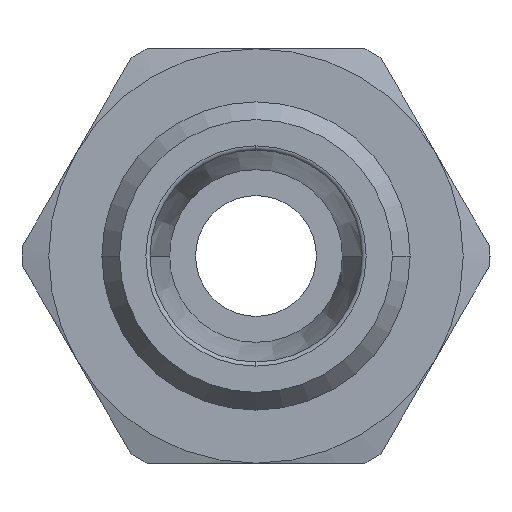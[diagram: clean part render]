
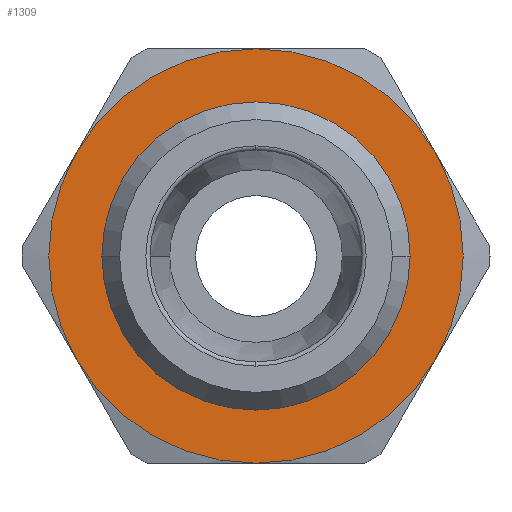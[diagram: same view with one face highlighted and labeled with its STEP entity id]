
A CAD part, left-side view. The second image highlights one B-rep face of the part: STEP entity #1309.
In plain terms, the highlighted planar face has unit normal (-1, 0, 0) as drawn and (0, 0, 1) by its records, which use the part's own axes.
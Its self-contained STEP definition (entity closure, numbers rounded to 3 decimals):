
#317=CARTESIAN_POINT('',(-8.8,0.,11.0));
#318=VERTEX_POINT('',#317);
#344=CARTESIAN_POINT('',(8.8,0.,11.0));
#345=VERTEX_POINT('',#344);
#353=CARTESIAN_POINT('',(0.,0.,11.0));
#354=DIRECTION('',(0.0,0.0,1.0));
#355=DIRECTION('',(-1.0,0.0,0.0));
#356=AXIS2_PLACEMENT_3D('',#353,#354,#355);
#357=CIRCLE('',#356,8.8);
#358=EDGE_CURVE('',#345,#318,#357,.T.);
#1189=CARTESIAN_POINT('',(0.,-8.8,11.));
#1190=VERTEX_POINT('',#1189);
#1191=CARTESIAN_POINT('',(0.,0.,11.0));
#1192=DIRECTION('',(0.0,0.0,1.0));
#1193=DIRECTION('',(-1.0,0.0,0.0));
#1194=AXIS2_PLACEMENT_3D('',#1191,#1192,#1193);
#1195=CIRCLE('',#1194,8.8);
#1196=EDGE_CURVE('',#318,#1190,#1195,.T.);
#1198=CARTESIAN_POINT('',(0.,0.,11.0));
#1199=DIRECTION('',(0.0,0.0,1.0));
#1200=DIRECTION('',(-1.0,0.0,0.0));
#1201=AXIS2_PLACEMENT_3D('',#1198,#1199,#1200);
#1202=CIRCLE('',#1201,8.8);
#1203=EDGE_CURVE('',#1190,#345,#1202,.T.);
#1243=CARTESIAN_POINT('',(0.,0.,11.0));
#1244=DIRECTION('',(0.0,0.0,1.0));
#1245=DIRECTION('',(1.0,0.0,0.0));
#1246=AXIS2_PLACEMENT_3D('',#1243,#1244,#1245);
#1247=PLANE('',#1246);
#1248=CARTESIAN_POINT('',(6.,-10.392,11.0));
#1249=VERTEX_POINT('',#1248);
#1250=CARTESIAN_POINT('',(12.0,0.0,11.0));
#1251=VERTEX_POINT('',#1250);
#1252=CARTESIAN_POINT('',(0.,0.0,11.0));
#1253=DIRECTION('',(0.0,0.0,1.0));
#1254=DIRECTION('',(1.0,0.0,0.0));
#1255=AXIS2_PLACEMENT_3D('',#1252,#1253,#1254);
#1256=CIRCLE('',#1255,12.);
#1257=EDGE_CURVE('',#1249,#1251,#1256,.T.);
#1258=ORIENTED_EDGE('',*,*,#1257,.T.);
#1259=CARTESIAN_POINT('',(6.,10.392,11.0));
#1260=VERTEX_POINT('',#1259);
#1261=CARTESIAN_POINT('',(0.,0.0,11.0));
#1262=DIRECTION('',(0.0,0.0,1.0));
#1263=DIRECTION('',(1.0,0.0,0.0));
#1264=AXIS2_PLACEMENT_3D('',#1261,#1262,#1263);
#1265=CIRCLE('',#1264,12.);
#1266=EDGE_CURVE('',#1251,#1260,#1265,.T.);
#1267=ORIENTED_EDGE('',*,*,#1266,.T.);
#1268=CARTESIAN_POINT('',(-6.,10.392,11.0));
#1269=VERTEX_POINT('',#1268);
#1270=CARTESIAN_POINT('',(0.,0.0,11.0));
#1271=DIRECTION('',(0.0,0.0,1.0));
#1272=DIRECTION('',(1.0,0.0,0.0));
#1273=AXIS2_PLACEMENT_3D('',#1270,#1271,#1272);
#1274=CIRCLE('',#1273,12.);
#1275=EDGE_CURVE('',#1260,#1269,#1274,.T.);
#1276=ORIENTED_EDGE('',*,*,#1275,.T.);
#1277=CARTESIAN_POINT('',(-12.0,0.,11.0));
#1278=VERTEX_POINT('',#1277);
#1279=CARTESIAN_POINT('',(0.,0.0,11.0));
#1280=DIRECTION('',(0.0,0.0,1.0));
#1281=DIRECTION('',(1.0,0.0,0.0));
#1282=AXIS2_PLACEMENT_3D('',#1279,#1280,#1281);
#1283=CIRCLE('',#1282,12.);
#1284=EDGE_CURVE('',#1269,#1278,#1283,.T.);
#1285=ORIENTED_EDGE('',*,*,#1284,.T.);
#1286=CARTESIAN_POINT('',(-6.,-10.392,11.0));
#1287=VERTEX_POINT('',#1286);
#1288=CARTESIAN_POINT('',(0.,0.0,11.0));
#1289=DIRECTION('',(0.0,0.0,1.0));
#1290=DIRECTION('',(1.0,0.0,0.0));
#1291=AXIS2_PLACEMENT_3D('',#1288,#1289,#1290);
#1292=CIRCLE('',#1291,12.);
#1293=EDGE_CURVE('',#1278,#1287,#1292,.T.);
#1294=ORIENTED_EDGE('',*,*,#1293,.T.);
#1295=CARTESIAN_POINT('',(0.,0.0,11.0));
#1296=DIRECTION('',(0.0,0.0,1.0));
#1297=DIRECTION('',(1.0,0.0,0.0));
#1298=AXIS2_PLACEMENT_3D('',#1295,#1296,#1297);
#1299=CIRCLE('',#1298,12.);
#1300=EDGE_CURVE('',#1287,#1249,#1299,.T.);
#1301=ORIENTED_EDGE('',*,*,#1300,.T.);
#1302=EDGE_LOOP('',(#1258,#1267,#1276,#1285,#1294,#1301));
#1303=FACE_OUTER_BOUND('',#1302,.T.);
#1304=ORIENTED_EDGE('',*,*,#1203,.F.);
#1305=ORIENTED_EDGE('',*,*,#1196,.F.);
#1306=ORIENTED_EDGE('',*,*,#358,.F.);
#1307=EDGE_LOOP('',(#1304,#1305,#1306));
#1308=FACE_BOUND('',#1307,.T.);
#1309=ADVANCED_FACE('',(#1303,#1308),#1247,.T.);
